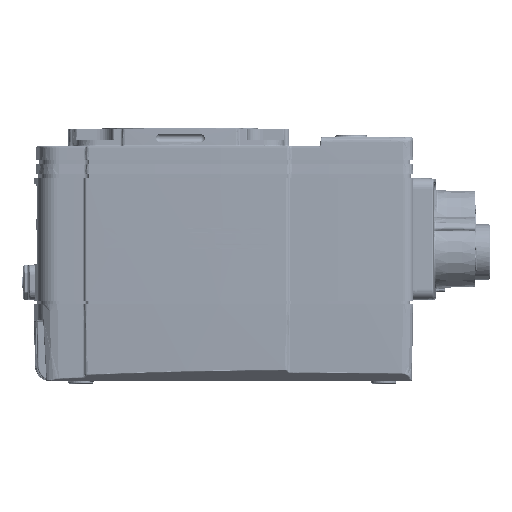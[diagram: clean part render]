
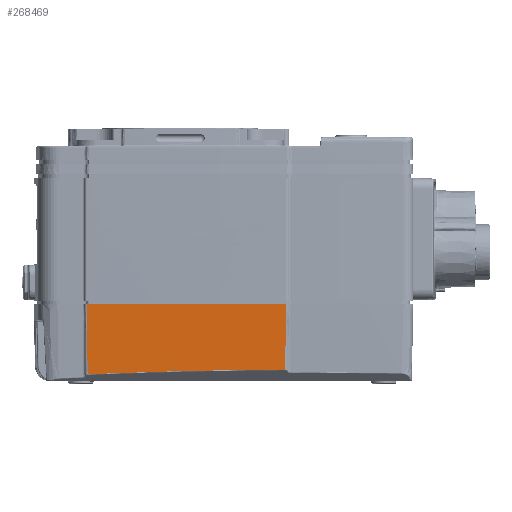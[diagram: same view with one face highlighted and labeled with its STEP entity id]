
A CAD part, left-side view. The second image highlights one B-rep face of the part: STEP entity #268469.
In plain terms, the highlighted conical face has half-angle 1 degrees and reference radius 1000 mm.
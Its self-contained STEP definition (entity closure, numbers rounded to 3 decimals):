
#1032 = B_SPLINE_CURVE_WITH_KNOTS ( 'NONE', 3,
 ( #223316, #296892, #273124, #124697, #297969, #149645, #1187, #174558, #26143, #199424 ),
 .UNSPECIFIED., .F., .F.,
 ( 4, 3, 3, 4 ),
 ( 0., 0.001, 0.005, 0.013 ),
 .UNSPECIFIED. ) ;
#1187 = CARTESIAN_POINT ( 'NONE',  ( -30.113, -20.332, -36.7 ) ) ;
#7063 = CIRCLE ( 'NONE', #251180, 1000. ) ;
#10242 = VERTEX_POINT ( 'NONE', #13869 ) ;
#13869 = CARTESIAN_POINT ( 'NONE',  ( -30.249, -20.41, -28.95 ) ) ;
#23469 = CARTESIAN_POINT ( 'NONE',  ( 969.744, -24.2, -28.95 ) ) ;
#26143 = CARTESIAN_POINT ( 'NONE',  ( -30.204, -20.384, -31.533 ) ) ;
#31934 = CARTESIAN_POINT ( 'NONE',  ( -29.353, 18.019, -29.617 ) ) ;
#48232 = ORIENTED_EDGE ( 'NONE', *, *, #79976, .T. ) ;
#48395 = DIRECTION ( 'NONE',  ( 1., 0., 0. ) ) ;
#52293 = B_SPLINE_CURVE_WITH_KNOTS ( 'NONE', 3,
 ( #301557, #303748, #31934, #205226, #56815, #230152, #81687, #255095, #106618, #279923 ),
 .UNSPECIFIED., .F., .F.,
 ( 4, 3, 3, 4 ),
 ( 0., 0.001, 0.005, 0.014 ),
 .UNSPECIFIED. ) ;
#56815 = CARTESIAN_POINT ( 'NONE',  ( -29.324, 18.001, -31.283 ) ) ;
#79976 = EDGE_CURVE ( 'NONE', #284267, #221294, #52293, .T. ) ;
#81226 = VERTEX_POINT ( 'NONE', #281094 ) ;
#81687 = CARTESIAN_POINT ( 'NONE',  ( -29.279, 17.974, -33.949 ) ) ;
#91940 = CARTESIAN_POINT ( 'NONE',  ( -29.364, 18.026, -28.95 ) ) ;
#94384 = ORIENTED_EDGE ( 'NONE', *, *, #137031, .T. ) ;
#100037 = DIRECTION ( 'NONE',  ( 0., 0., 1. ) ) ;
#105153 = EDGE_CURVE ( 'NONE', #81226, #10242, #1032, .T. ) ;
#106618 = CARTESIAN_POINT ( 'NONE',  ( -29.182, 17.915, -39.644 ) ) ;
#110214 = AXIS2_PLACEMENT_3D ( 'NONE', #150905, #100037, #250573 ) ;
#117705 = CARTESIAN_POINT ( 'NONE',  ( -29.977, -7.55, -41.649 ) ) ;
#124697 = CARTESIAN_POINT ( 'NONE',  ( -30.043, -20.292, -40.699 ) ) ;
#137031 = EDGE_CURVE ( 'NONE', #221294, #81226, #161950, .T. ) ;
#138536 = EDGE_CURVE ( 'NONE', #284267, #10242, #7063, .T. ) ;
#144366 = CARTESIAN_POINT ( 'NONE',  ( -29.134, 17.886, -42.492 ) ) ;
#149645 = CARTESIAN_POINT ( 'NONE',  ( -30.09, -20.319, -38.033 ) ) ;
#150905 = CARTESIAN_POINT ( 'NONE',  ( 969.744, -24.2, -28.95 ) ) ;
#161950 = B_SPLINE_CURVE_WITH_KNOTS ( 'NONE', 3,
 ( #163260, #241240, #117705, #290971 ),
 .UNSPECIFIED., .F., .F.,
 ( 4, 4 ),
 ( 0., 0.038 ),
 .UNSPECIFIED. ) ;
#163260 = CARTESIAN_POINT ( 'NONE',  ( -29.134, 17.886, -42.492 ) ) ;
#174558 = CARTESIAN_POINT ( 'NONE',  ( -30.159, -20.358, -34.117 ) ) ;
#180166 = ORIENTED_EDGE ( 'NONE', *, *, #105153, .T. ) ;
#195045 = EDGE_LOOP ( 'NONE', ( #48232, #94384, #180166, #297086 ) ) ;
#196800 = DIRECTION ( 'NONE',  ( 0., 0., 1. ) ) ;
#199424 = CARTESIAN_POINT ( 'NONE',  ( -30.249, -20.41, -28.95 ) ) ;
#205226 = CARTESIAN_POINT ( 'NONE',  ( -29.347, 18.015, -29.95 ) ) ;
#221294 = VERTEX_POINT ( 'NONE', #144366 ) ;
#223316 = CARTESIAN_POINT ( 'NONE',  ( -30.028, -20.283, -41.598 ) ) ;
#230152 = CARTESIAN_POINT ( 'NONE',  ( -29.302, 17.988, -32.616 ) ) ;
#231713 = FACE_OUTER_BOUND ( 'NONE', #195045, .T. ) ;
#241240 = CARTESIAN_POINT ( 'NONE',  ( -29.679, 5.176, -41.947 ) ) ;
#250573 = DIRECTION ( 'NONE',  ( 1., 0., 0. ) ) ;
#251180 = AXIS2_PLACEMENT_3D ( 'NONE', #23469, #196800, #48395 ) ;
#255095 = CARTESIAN_POINT ( 'NONE',  ( -29.231, 17.944, -36.797 ) ) ;
#266508 = CONICAL_SURFACE ( 'NONE', #110214, 1000., 0.017 ) ;
#268469 = ADVANCED_FACE ( 'NONE', ( #231713 ), #266508, .T. ) ;
#273124 = CARTESIAN_POINT ( 'NONE',  ( -30.038, -20.289, -40.999 ) ) ;
#279923 = CARTESIAN_POINT ( 'NONE',  ( -29.134, 17.886, -42.492 ) ) ;
#281094 = CARTESIAN_POINT ( 'NONE',  ( -30.028, -20.283, -41.598 ) ) ;
#284267 = VERTEX_POINT ( 'NONE', #91940 ) ;
#290971 = CARTESIAN_POINT ( 'NONE',  ( -30.028, -20.283, -41.598 ) ) ;
#296892 = CARTESIAN_POINT ( 'NONE',  ( -30.033, -20.286, -41.298 ) ) ;
#297086 = ORIENTED_EDGE ( 'NONE', *, *, #138536, .F. ) ;
#297969 = CARTESIAN_POINT ( 'NONE',  ( -30.067, -20.305, -39.366 ) ) ;
#301557 = CARTESIAN_POINT ( 'NONE',  ( -29.364, 18.026, -28.95 ) ) ;
#303748 = CARTESIAN_POINT ( 'NONE',  ( -29.359, 18.022, -29.283 ) ) ;
